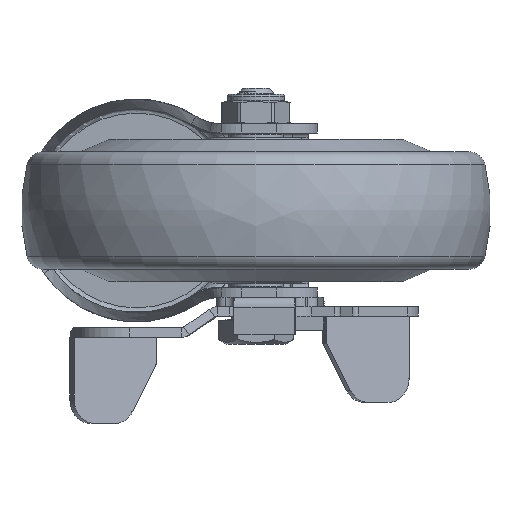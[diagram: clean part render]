
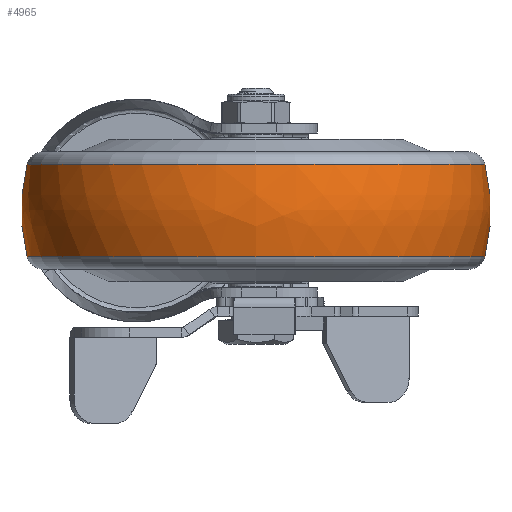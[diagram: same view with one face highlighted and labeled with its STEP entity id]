
A CAD part, front view. The second image highlights one B-rep face of the part: STEP entity #4965.
In plain terms, the highlighted free-form (B-spline) face has degree [3, 3] with [7, 4] control points.
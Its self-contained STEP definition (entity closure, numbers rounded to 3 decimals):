
#4467=CARTESIAN_POINT('',(0.,10.,0.));
#4468=DIRECTION('',(0.,0.,1.));
#4469=DIRECTION('',(0.247,0.969,0.));
#4470=AXIS2_PLACEMENT_3D('',#4467,#4468,#4469);
#4472=CARTESIAN_POINT('',(0.,-10.,0.));
#4473=DIRECTION('',(0.,0.,-1.));
#4474=DIRECTION('',(0.247,-0.969,0.));
#4475=AXIS2_PLACEMENT_3D('',#4472,#4473,#4474);
#4477=CARTESIAN_POINT('',(9.863,0.,0.));
#4478=DIRECTION('',(-1.,0.,0.));
#4479=DIRECTION('',(0.,1.,0.));
#4480=AXIS2_PLACEMENT_3D('',#4477,#4478,#4479);
#4502=CARTESIAN_POINT('',(-9.863,0.,0.));
#4503=DIRECTION('',(-1.,0.,0.));
#4504=DIRECTION('',(0.,1.,0.));
#4505=AXIS2_PLACEMENT_3D('',#4502,#4503,#4504);
#4656=CARTESIAN_POINT('',(9.863,48.765,0.));
#4658=VERTEX_POINT('',#4656);
#4659=CARTESIAN_POINT('',(-9.863,48.765,0.));
#4660=VERTEX_POINT('',#4659);
#4696=CARTESIAN_POINT('',(9.863,-48.765,
0.));
#4698=VERTEX_POINT('',#4696);
#4699=CARTESIAN_POINT('',(-9.863,-48.765,
0.));
#4700=VERTEX_POINT('',#4699);
#4927=CARTESIAN_POINT('',(-10.249,-48.569,
3.056));
#4928=CARTESIAN_POINT('',(-3.494,-50.356,
3.168));
#4929=CARTESIAN_POINT('',(3.494,-50.356,3.168));
#4930=CARTESIAN_POINT('',(10.249,-48.569,3.056));
#4931=CARTESIAN_POINT('',(-10.249,-50.449,
-26.833));
#4932=CARTESIAN_POINT('',(-3.494,-52.305,
-27.821));
#4933=CARTESIAN_POINT('',(3.494,-52.305,
-27.821));
#4934=CARTESIAN_POINT('',(10.249,-50.449,
-26.833));
#4935=CARTESIAN_POINT('',(-10.249,-29.948,
-48.665));
#4936=CARTESIAN_POINT('',(-3.494,-31.05,
-50.455));
#4937=CARTESIAN_POINT('',(3.494,-31.05,
-50.455));
#4938=CARTESIAN_POINT('',(10.249,-29.948,
-48.665));
#4939=CARTESIAN_POINT('',(-10.249,0.,
-48.665));
#4940=CARTESIAN_POINT('',(-3.494,0.,
-50.455));
#4941=CARTESIAN_POINT('',(3.494,0.,
-50.455));
#4942=CARTESIAN_POINT('',(10.249,0.,
-48.665));
#4943=CARTESIAN_POINT('',(-10.249,29.948,
-48.665));
#4944=CARTESIAN_POINT('',(-3.494,31.05,
-50.455));
#4945=CARTESIAN_POINT('',(3.494,31.05,-50.455));
#4946=CARTESIAN_POINT('',(10.249,29.948,-48.665));
#4947=CARTESIAN_POINT('',(-10.249,50.449,
-26.833));
#4948=CARTESIAN_POINT('',(-3.494,52.305,
-27.821));
#4949=CARTESIAN_POINT('',(3.494,52.305,-27.821));
#4950=CARTESIAN_POINT('',(10.249,50.449,-26.833));
#4951=CARTESIAN_POINT('',(-10.249,48.569,3.056));
#4952=CARTESIAN_POINT('',(-3.494,50.356,3.168));
#4953=CARTESIAN_POINT('',(3.494,50.356,3.168));
#4954=CARTESIAN_POINT('',(10.249,48.569,3.056));
#4955=(BOUNDED_SURFACE()B_SPLINE_SURFACE(3,3,((#4927,#4928,#4929,#4930),(#4931,
#4932,#4933,#4934),(#4935,#4936,#4937,#4938),(#4939,#4940,#4941,#4942),(#4943,
#4944,#4945,#4946),(#4947,#4948,#4949,#4950),(#4951,#4952,#4953,#4954)),
.UNSPECIFIED.,.F.,.F.,.F.)B_SPLINE_SURFACE_WITH_KNOTS((4,3,4),(4,4),(0.,1.,
2.),(0.,1.),.UNSPECIFIED.)GEOMETRIC_REPRESENTATION_ITEM()RATIONAL_B_SPLINE_SURFACE(((1.207,1.181,1.181,1.207),(
0.953,0.932,0.932,0.953),(
0.953,0.932,0.932,0.953),(
1.207,1.181,1.181,1.207),(
0.953,0.932,0.932,0.953),(
0.953,0.932,0.932,0.953),(
1.207,1.181,1.181,1.207)))REPRESENTATION_ITEM('')SURFACE());
#4957=ORIENTED_EDGE('',*,*,#4956,.T.);
#4959=ORIENTED_EDGE('',*,*,#4958,.T.);
#4961=ORIENTED_EDGE('',*,*,#4960,.F.);
#4962=ORIENTED_EDGE('',*,*,#4920,.F.);
#4963=EDGE_LOOP('',(#4957,#4959,#4961,#4962));
#4964=FACE_OUTER_BOUND('',#4963,.F.);
#4471=CIRCLE('',#4470,40.);
#4476=CIRCLE('',#4475,40.);
#4481=CIRCLE('',#4480,48.765);
#4506=CIRCLE('',#4505,48.765);
#4920=EDGE_CURVE('',#4658,#4698,#4481,.T.);
#4956=EDGE_CURVE('',#4658,#4660,#4471,.T.);
#4958=EDGE_CURVE('',#4660,#4700,#4506,.T.);
#4960=EDGE_CURVE('',#4698,#4700,#4476,.T.);
#4965=ADVANCED_FACE('',(#4964),#4955,.T.);
